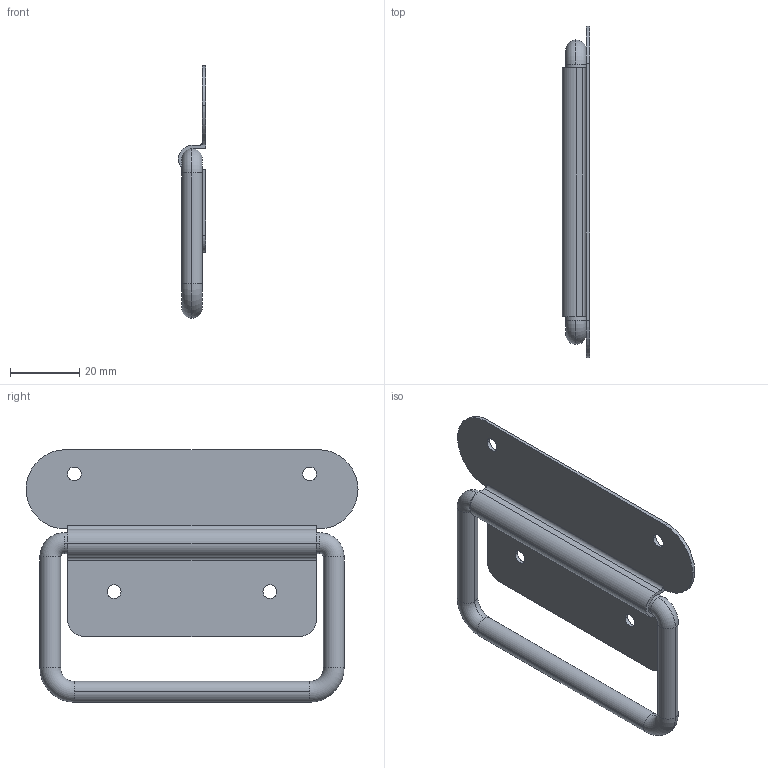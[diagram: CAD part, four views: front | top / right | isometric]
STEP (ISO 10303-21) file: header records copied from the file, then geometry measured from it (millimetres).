
FILE_DESCRIPTION((''),'2;1');
FILE_NAME('6457.01.00.stp','2023-10-09T15:13:15',(''),(''),'Mechanical Desktop 2006','Mechanical Desktop 2006',', , ');
FILE_SCHEMA(('CONFIG_CONTROL_DESIGN'));
Length unit declared in the file: millimetre
Products named in the file (1): 6457.01.00
Bounding box: 8 x 96 x 73 mm (x, y, z)
Volume: 11598.1 mm3; surface area: 14770.9 mm2
Topology: 2 solids, 2 shells, 54 faces, 142 edges, 92 vertices
Faces by surface type: cylinder 32, plane 14, torus 8
Entity records: 1811 total; most frequent: DIRECTION 332, CARTESIAN_POINT 289, ORIENTED_EDGE 284, EDGE_CURVE 142, AXIS2_PLACEMENT_3D 135, VERTEX_POINT 92, CIRCLE 80, EDGE_LOOP 62
